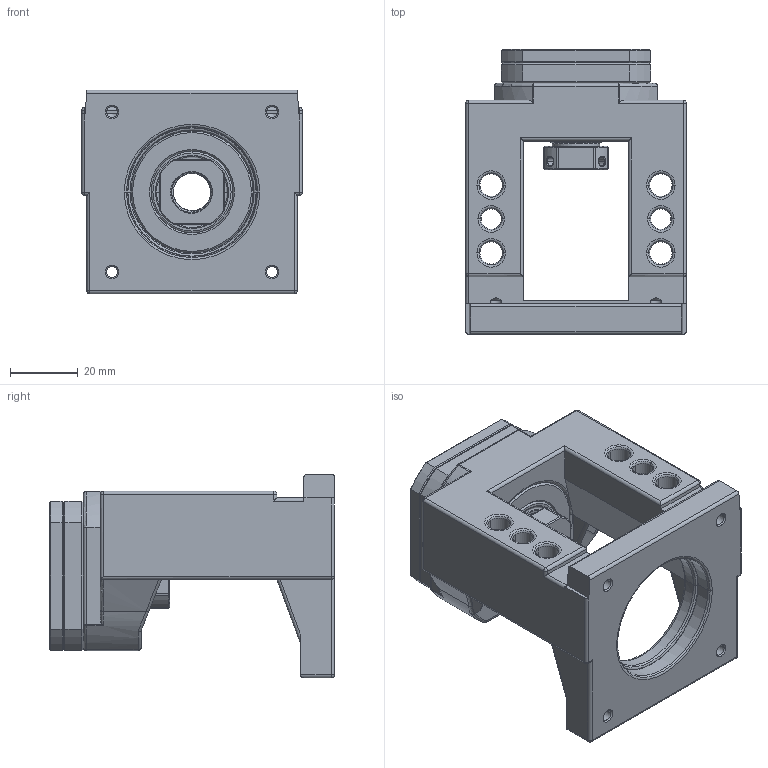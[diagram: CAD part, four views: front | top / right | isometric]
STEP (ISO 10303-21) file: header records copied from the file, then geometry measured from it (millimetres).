
FILE_DESCRIPTION((''),'2;1');
FILE_NAME('FK12-B_ASM','2020-11-11T',('Administrator'),(''),'PRO/ENGINEER BY PARAMETRIC TECHNOLOGY CORPORATION, 2010280','PRO/ENGINEER BY PARAMETRIC TECHNOLOGY CORPORATION, 2010280','');
FILE_SCHEMA(('CONFIG_CONTROL_DESIGN'));
Length unit declared in the file: millimetre
Products named in the file (6): BREP_WITH_VOIDS_21168; MANIFOLD_SOLID_BREP_28135; _FK12; FK12_ASM_ASM; PRT0001; FK12-B_ASM
Assembly tree (5 placements, depth 3):
  FK12-B_ASM
    FK12_ASM_ASM
      BREP_WITH_VOIDS_21168
      MANIFOLD_SOLID_BREP_28135
      _FK12
    PRT0001
Bounding box: 65 x 84 x 60 mm (x, y, z)
Volume: 114799.9 mm3; surface area: 44936.4 mm2
Topology: 3 solids, 14 shells, 976 faces, 2748 edges, 1775 vertices
Faces by surface type: cylinder 349, cone 222, plane 202, torus 122, bspline 41, sphere 40
Entity records: 41466 total; most frequent: CARTESIAN_POINT 15849, DIRECTION 5602, ORIENTED_EDGE 5364, EDGE_CURVE 2700, AXIS2_PLACEMENT_3D 2358, VERTEX_POINT 1775, CIRCLE 1409, EDGE_LOOP 1071
